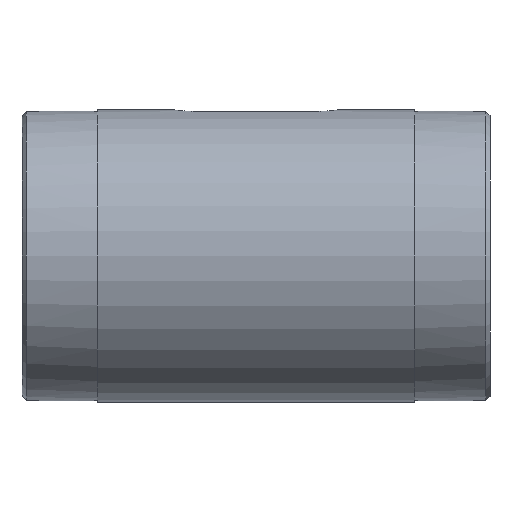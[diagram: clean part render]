
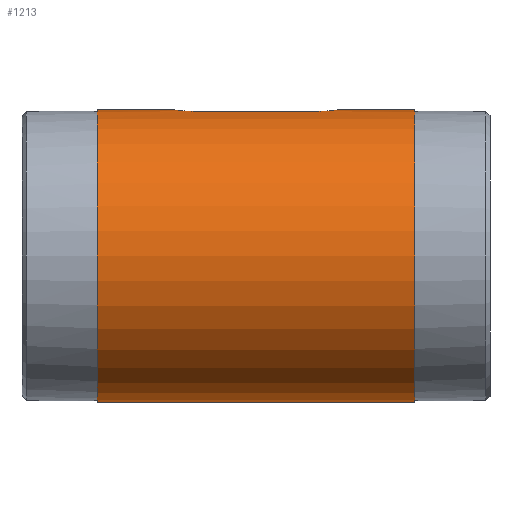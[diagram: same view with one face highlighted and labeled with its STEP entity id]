
A CAD part, front view. The second image highlights one B-rep face of the part: STEP entity #1213.
In plain terms, the highlighted cylindrical face has radius 17.5 mm (diameter 35 mm), a partial arc.
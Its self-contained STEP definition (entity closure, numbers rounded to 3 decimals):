
#10 = CARTESIAN_POINT ( 'NONE',  ( -18.616, -1.652, 17.422 ) ) ;
#13 = CARTESIAN_POINT ( 'NONE',  ( -18.847, -1.882, 17.399 ) ) ;
#42 = VERTEX_POINT ( 'NONE', #269 ) ;
#61 = CARTESIAN_POINT ( 'NONE',  ( -19.852, -2.42, 17.332 ) ) ;
#75 = CARTESIAN_POINT ( 'NONE',  ( -19.693, -2.372, 17.339 ) ) ;
#80 = CARTESIAN_POINT ( 'NONE',  ( -18., 0., 17.5 ) ) ;
#82 = DIRECTION ( 'NONE',  ( -1., 0., 0. ) ) ;
#85 = CARTESIAN_POINT ( 'NONE',  ( -18.128, -0.807, 17.482 ) ) ;
#88 = CARTESIAN_POINT ( 'NONE',  ( -37.06, 0., 17.5 ) ) ;
#93 = CARTESIAN_POINT ( 'NONE',  ( -38., -0.163, 17.5 ) ) ;
#98 = AXIS2_PLACEMENT_3D ( 'NONE', #705, #82, #803 ) ;
#99 = CARTESIAN_POINT ( 'NONE',  ( -37.026, -1.987, 17.387 ) ) ;
#110 = CARTESIAN_POINT ( 'NONE',  ( -18.016, -0.326, 17.498 ) ) ;
#117 = ORIENTED_EDGE ( 'NONE', *, *, #1412, .F. ) ;
#127 = AXIS2_PLACEMENT_3D ( 'NONE', #1071, #1190, #1303 ) ;
#152 = LINE ( 'NONE', #655, #1087 ) ;
#160 = CARTESIAN_POINT ( 'NONE',  ( -20.5, -2.5, 17.321 ) ) ;
#164 = EDGE_CURVE ( 'NONE', #1047, #352, #1176, .T. ) ;
#174 = EDGE_CURVE ( 'NONE', #405, #455, #827, .T. ) ;
#184 = LINE ( 'NONE', #890, #976 ) ;
#195 = CARTESIAN_POINT ( 'NONE',  ( -36.609, -2.246, 17.355 ) ) ;
#207 = CARTESIAN_POINT ( 'NONE',  ( -18.513, -1.526, 17.434 ) ) ;
#209 = CARTESIAN_POINT ( 'NONE',  ( -37.06, 0., 0. ) ) ;
#243 = ORIENTED_EDGE ( 'NONE', *, *, #1142, .F. ) ;
#250 = CARTESIAN_POINT ( 'NONE',  ( -38., 0., 17.5 ) ) ;
#264 = DIRECTION ( 'NONE',  ( -1., 0., 0. ) ) ;
#269 = CARTESIAN_POINT ( 'NONE',  ( -47., 0., -17.5 ) ) ;
#305 = CARTESIAN_POINT ( 'NONE',  ( -36.151, -2.419, 17.332 ) ) ;
#337 = CARTESIAN_POINT ( 'NONE',  ( -35.5, -2.5, 17.321 ) ) ;
#352 = VERTEX_POINT ( 'NONE', #528 ) ;
#378 = ORIENTED_EDGE ( 'NONE', *, *, #1194, .F. ) ;
#402 = CARTESIAN_POINT ( 'NONE',  ( -37.92, -0.65, 17.489 ) ) ;
#405 = VERTEX_POINT ( 'NONE', #250 ) ;
#408 = CARTESIAN_POINT ( 'NONE',  ( -35.665, -2.5, 17.321 ) ) ;
#409 = VERTEX_POINT ( 'NONE', #414 ) ;
#413 = DIRECTION ( 'NONE',  ( -1., 0., 0. ) ) ;
#414 = CARTESIAN_POINT ( 'NONE',  ( -9., 0., -17.5 ) ) ;
#437 = CARTESIAN_POINT ( 'NONE',  ( -20.172, -2.484, 17.323 ) ) ;
#455 = VERTEX_POINT ( 'NONE', #718 ) ;
#472 = DIRECTION ( 'NONE',  ( -1., 0., 0. ) ) ;
#473 = VECTOR ( 'NONE', #472, 1000. ) ;
#495 = ORIENTED_EDGE ( 'NONE', *, *, #1036, .F. ) ;
#500 = CARTESIAN_POINT ( 'NONE',  ( -20.5, -2.5, 17.321 ) ) ;
#509 = CARTESIAN_POINT ( 'NONE',  ( -37.747, -1.108, 17.466 ) ) ;
#518 = CARTESIAN_POINT ( 'NONE',  ( -18.08, -0.649, 17.489 ) ) ;
#528 = CARTESIAN_POINT ( 'NONE',  ( -18., 0., 17.5 ) ) ;
#538 = CARTESIAN_POINT ( 'NONE',  ( -20.335, -2.5, 17.321 ) ) ;
#605 = VERTEX_POINT ( 'NONE', #894 ) ;
#621 = CARTESIAN_POINT ( 'NONE',  ( -37.488, -1.525, 17.434 ) ) ;
#630 = EDGE_CURVE ( 'NONE', #605, #352, #184, .T. ) ;
#648 = ORIENTED_EDGE ( 'NONE', *, *, #164, .F. ) ;
#655 = CARTESIAN_POINT ( 'NONE',  ( -37.06, -2.5, 17.321 ) ) ;
#661 = EDGE_LOOP ( 'NONE', ( #378, #1374, #1277, #648, #117, #243, #669, #495 ) ) ;
#669 = ORIENTED_EDGE ( 'NONE', *, *, #174, .T. ) ;
#705 = CARTESIAN_POINT ( 'NONE',  ( -47., 0., 0. ) ) ;
#718 = CARTESIAN_POINT ( 'NONE',  ( -47., 0., 17.5 ) ) ;
#722 = CARTESIAN_POINT ( 'NONE',  ( -37.152, -1.884, 17.399 ) ) ;
#725 = AXIS2_PLACEMENT_3D ( 'NONE', #209, #730, #1408 ) ;
#730 = DIRECTION ( 'NONE',  ( -1., 0., 0. ) ) ;
#743 = CARTESIAN_POINT ( 'NONE',  ( -18.975, -1.988, 17.387 ) ) ;
#745 = CARTESIAN_POINT ( 'NONE',  ( -19.247, -2.169, 17.365 ) ) ;
#802 = CARTESIAN_POINT ( 'NONE',  ( -18., -0.163, 17.5 ) ) ;
#803 = DIRECTION ( 'NONE',  ( 0., 0., 1. ) ) ;
#821 = CARTESIAN_POINT ( 'NONE',  ( -36.755, -2.168, 17.365 ) ) ;
#827 = LINE ( 'NONE', #88, #473 ) ;
#832 = CARTESIAN_POINT ( 'NONE',  ( -18.33, -1.253, 17.456 ) ) ;
#871 = EDGE_CURVE ( 'NONE', #409, #605, #1105, .T. ) ;
#890 = CARTESIAN_POINT ( 'NONE',  ( -37.06, 0., 17.5 ) ) ;
#894 = CARTESIAN_POINT ( 'NONE',  ( -9., 0., 17.5 ) ) ;
#942 = CARTESIAN_POINT ( 'NONE',  ( -36.307, -2.372, 17.339 ) ) ;
#976 = VECTOR ( 'NONE', #264, 1000. ) ;
#981 = DIRECTION ( 'NONE',  ( 1., 0., 0. ) ) ;
#1036 = EDGE_CURVE ( 'NONE', #42, #455, #1233, .T. ) ;
#1047 = VERTEX_POINT ( 'NONE', #500 ) ;
#1058 = CARTESIAN_POINT ( 'NONE',  ( -37.984, -0.329, 17.498 ) ) ;
#1064 = CARTESIAN_POINT ( 'NONE',  ( -35.831, -2.483, 17.323 ) ) ;
#1071 = CARTESIAN_POINT ( 'NONE',  ( -9., 0., 0. ) ) ;
#1085 = LINE ( 'NONE', #1404, #1340 ) ;
#1087 = VECTOR ( 'NONE', #981, 1000. ) ;
#1105 = CIRCLE ( 'NONE', #127, 17.5 ) ;
#1142 = EDGE_CURVE ( 'NONE', #405, #1339, #1334, .T. ) ;
#1147 = FACE_OUTER_BOUND ( 'NONE', #661, .T. ) ;
#1169 = CARTESIAN_POINT ( 'NONE',  ( -37.872, -0.805, 17.482 ) ) ;
#1172 = CARTESIAN_POINT ( 'NONE',  ( -35.5, -2.5, 17.321 ) ) ;
#1176 = B_SPLINE_CURVE_WITH_KNOTS ( 'NONE', 3,
 ( #160, #538, #437, #61, #75, #1261, #745, #743, #13, #10, #207, #832, #1407, #85, #518, #110, #802, #80 ),
 .UNSPECIFIED., .F., .F.,
 ( 4, 2, 2, 2, 2, 2, 2, 2, 4 ),
 ( 0., 0., 0.001, 0.001, 0.002, 0.002, 0.003, 0.003, 0.004 ),
 .UNSPECIFIED. ) ;
#1190 = DIRECTION ( 'NONE',  ( -1., 0., 0. ) ) ;
#1194 = EDGE_CURVE ( 'NONE', #409, #42, #1085, .T. ) ;
#1213 = ADVANCED_FACE ( 'NONE', ( #1147 ), #1266, .T. ) ;
#1233 = CIRCLE ( 'NONE', #98, 17.5 ) ;
#1261 = CARTESIAN_POINT ( 'NONE',  ( -19.39, -2.246, 17.355 ) ) ;
#1266 = CYLINDRICAL_SURFACE ( 'NONE', #725, 17.5 ) ;
#1276 = CARTESIAN_POINT ( 'NONE',  ( -37.669, -1.254, 17.456 ) ) ;
#1277 = ORIENTED_EDGE ( 'NONE', *, *, #630, .T. ) ;
#1303 = DIRECTION ( 'NONE',  ( 0., 0., 1. ) ) ;
#1334 = B_SPLINE_CURVE_WITH_KNOTS ( 'NONE', 3,
 ( #1394, #93, #1058, #402, #1169, #509, #1276, #621, #1400, #722, #99, #821, #195, #942, #305, #1064, #408, #1172 ),
 .UNSPECIFIED., .F., .F.,
 ( 4, 2, 2, 2, 2, 2, 2, 2, 4 ),
 ( 0.004, 0.004, 0.005, 0.005, 0.006, 0.006, 0.007, 0.007, 0.008 ),
 .UNSPECIFIED. ) ;
#1339 = VERTEX_POINT ( 'NONE', #337 ) ;
#1340 = VECTOR ( 'NONE', #413, 1000. ) ;
#1374 = ORIENTED_EDGE ( 'NONE', *, *, #871, .T. ) ;
#1394 = CARTESIAN_POINT ( 'NONE',  ( -38., 0., 17.5 ) ) ;
#1400 = CARTESIAN_POINT ( 'NONE',  ( -37.385, -1.651, 17.422 ) ) ;
#1404 = CARTESIAN_POINT ( 'NONE',  ( -37.06, 0., -17.5 ) ) ;
#1407 = CARTESIAN_POINT ( 'NONE',  ( -18.253, -1.107, 17.466 ) ) ;
#1408 = DIRECTION ( 'NONE',  ( 0., 0., 1. ) ) ;
#1412 = EDGE_CURVE ( 'NONE', #1339, #1047, #152, .T. ) ;
